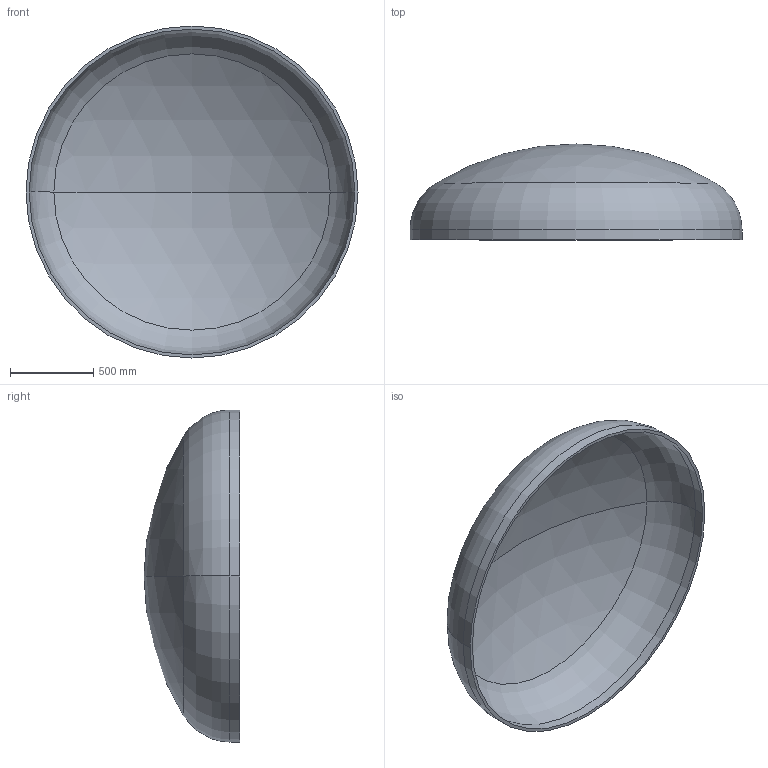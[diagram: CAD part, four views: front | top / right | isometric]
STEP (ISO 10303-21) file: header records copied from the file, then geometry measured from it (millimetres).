
FILE_DESCRIPTION (( 'STEP AP203' ), '1' );
FILE_NAME ('DIN 28013 Korbbogenform_-_Boden DIN 28013 - 2000 x 60 - I - s=19.step', '2016-07-01T13:40:42', ( '' ), ( '' ), 'SwSTEP 2.0', 'SolidWorks 2013', '' );
FILE_SCHEMA (( 'CONFIG_CONTROL_DESIGN' ));
Length unit declared in the file: millimetre
Products named in the file (1): DIN 28013 Korbbogenform_-_Boden DIN 28013 - 2000 x 60 - I - s=19
Bounding box: 2000 x 577.25 x 2000 mm (x, y, z)
Volume: 88836791.3 mm3; surface area: 9470240.2 mm2
Topology: 1 solids, 1 shells, 13 faces, 24 edges, 14 vertices
Faces by surface type: torus 4, cylinder 4, sphere 4, plane 1
Entity records: 407 total; most frequent: DIRECTION 72, CARTESIAN_POINT 52, ORIENTED_EDGE 48, AXIS2_PLACEMENT_3D 34, EDGE_CURVE 24, CIRCLE 20, VERTEX_POINT 14, EDGE_LOOP 14
